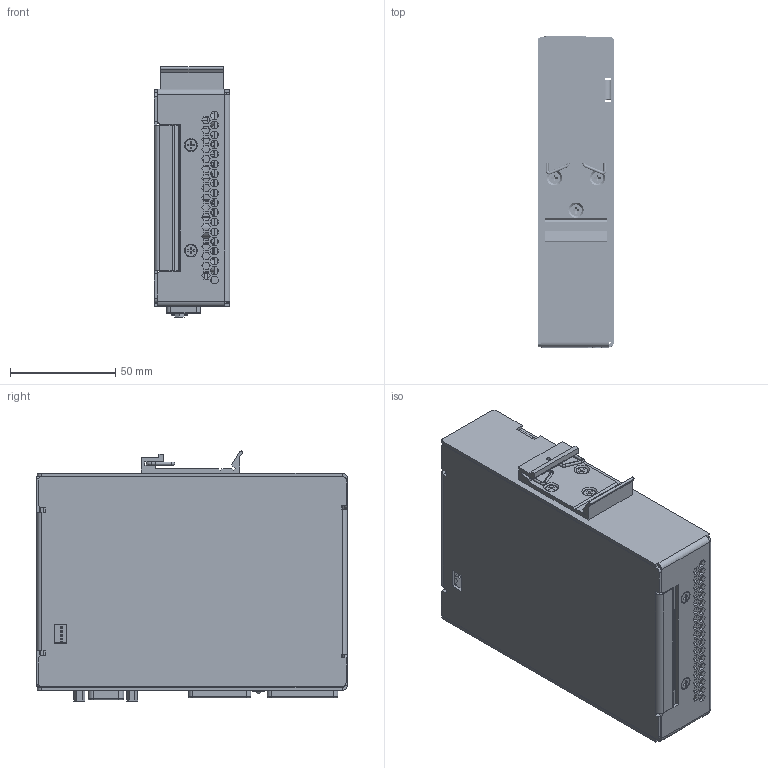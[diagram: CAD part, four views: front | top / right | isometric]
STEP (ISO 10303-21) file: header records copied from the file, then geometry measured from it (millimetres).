
FILE_DESCRIPTION (( 'STEP AP214' ), '1' );
FILE_NAME ('UPSIC-D_DC2412-UPSD_-LDD.STEP', '2019-08-06T12:07:46', ( '' ), ( '' ), 'SwSTEP 2.0', 'SolidWorks 2019', '' );
FILE_SCHEMA (( 'AUTOMOTIVE_DESIGN' ));
Length unit declared in the file: millimetre
Products named in the file (18): SCREW_oval-head screw M2x8_WUERTH 02832  8_DIN 7985 A2-70 BLK; UPSIC-1205_-2403_DC-2412-UPS-LD_v4.1; LED Holder KANG YANG; F1-0271 Right side; CONNECTOR_DSUB_UPSIC; LED BL-B2141-L; BOLT_Hexagon 4-40UNC; NUT_HEXAGONAL M2_WUERTH 03222_DIN 934 A2 BLK; CONNECTOR_POWER_UPSIC; SCREW_oval-head M3x5; PSZ-1063 uExtension Module_2; UPSIC-D_DC2412-UPSD_-LDD; CONNECTOR_RELAIS_UPSIC; SCREW_M3x4 COUNTERSUNK; SCREW_oval-head screw M3x14_WUERTH 00463  14_DIN 7985 4.8 A2K; F1-0250_DIN RAIL Holder_slim 29,4mm; SO-M3-6; F1-0271 Left side
Assembly tree (39 placements, depth 2):
  UPSIC-D_DC2412-UPSD_-LDD
    F1-0271 Left side
    SO-M3-6  x4
    SCREW_M3x4 COUNTERSUNK  x9
    UPSIC-1205_-2403_DC-2412-UPS-LD_v4.1
    F1-0250_DIN RAIL Holder_slim 29,4mm
    CONNECTOR_DSUB_UPSIC
    BOLT_Hexagon 4-40UNC  x2
    SCREW_oval-head M3x5  x2
    LED Holder KANG YANG  x2
    LED BL-B2141-L  x2
    CONNECTOR_POWER_UPSIC
    CONNECTOR_RELAIS_UPSIC
    SCREW_oval-head screw M2x8_WUERTH 02832  8_DIN 7985 A2-70 BLK  x4
    NUT_HEXAGONAL M2_WUERTH 03222_DIN 934 A2 BLK  x4
    F1-0271 Right side
    PSZ-1063 uExtension Module_2
    SCREW_oval-head screw M3x14_WUERTH 00463  14_DIN 7985 4.8 A2K  x2
Bounding box: 36 x 147.3 x 118.51 mm (x, y, z)
Volume: 186636.6 mm3; surface area: 177277.9 mm2
Topology: 470 solids, 478 shells, 6759 faces, 15843 edges, 10128 vertices
Faces by surface type: plane 5170, cylinder 1185, cone 149, torus 116, sphere 80, bspline 59
Full cylindrical faces by diameter (mm): 0.151 x4, 0.239 x4, 0.5 x15, 0.75 x58, 0.8 x16, 1 x4, 1.1 x7, 1.25 x7, 1.48 x2, 1.5 x6, 1.567 x4, 1.7 x2, 2 x7, 2.1 x2, 2.27 x26, 2.459 x4, 2.7 x6, 3 x8, 3.05 x2, 3.2 x4, 3.3 x2, 3.892 x4, 4 x7, 4.2 x6, 4.4 x2, 4.5 x1, 5.2 x1, 5.5 x2, 6 x6, 8 x3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
Entity records: 252328 total; most frequent: CARTESIAN_POINT 42144, ORIENTED_EDGE 28058, DIRECTION 27515, EDGE_CURVE 14029, LINE 11471, VECTOR 11471, VERTEX_POINT 9228, AXIS2_PLACEMENT_3D 8022
